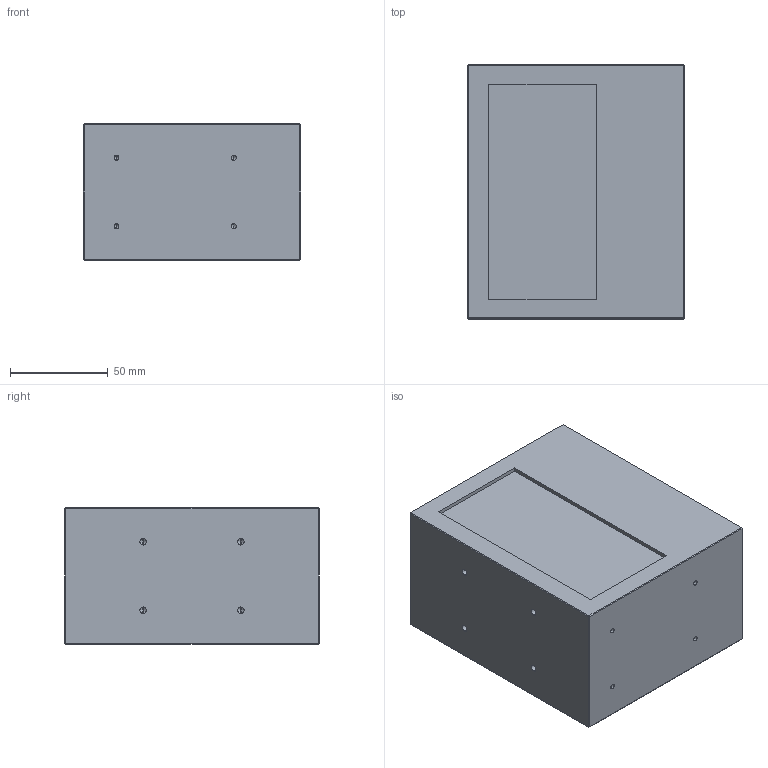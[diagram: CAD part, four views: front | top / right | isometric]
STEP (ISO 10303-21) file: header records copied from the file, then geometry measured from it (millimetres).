
FILE_DESCRIPTION (( 'STEP AP214' ), '1' );
FILE_NAME ('CST-COS12065-简易3D图.STEP', '2019-08-21T10:38:49', ( '微软用户' ), ( '微软中国' ), 'SwSTEP 2.0', 'SolidWorks 2014', '' );
FILE_SCHEMA (( 'AUTOMOTIVE_DESIGN' ));
Length unit declared in the file: millimetre
Products named in the file (1): CST-COS12065-潠眢3D芞
Bounding box: 111.2 x 130 x 70 mm (x, y, z)
Volume: 960173.3 mm3; surface area: 65489.2 mm2
Topology: 1 solids, 1 shells, 87 faces, 198 edges, 104 vertices
Faces by surface type: plane 37, cylinder 26, cone 24
Entity records: 2466 total; most frequent: DIRECTION 402, CARTESIAN_POINT 366, ORIENTED_EDGE 348, EDGE_CURVE 174, AXIS2_PLACEMENT_3D 140, VECTOR 122, LINE 122, VERTEX_POINT 104
